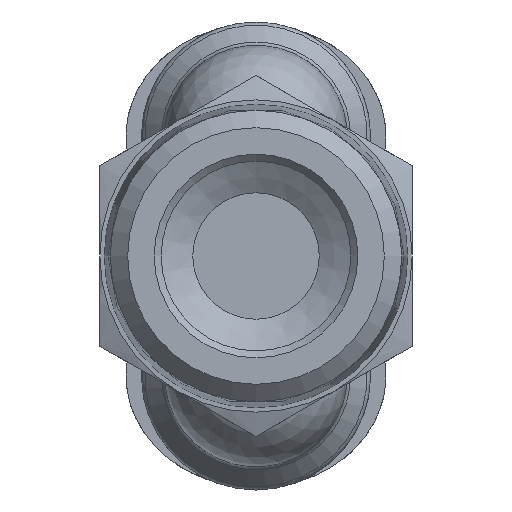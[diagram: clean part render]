
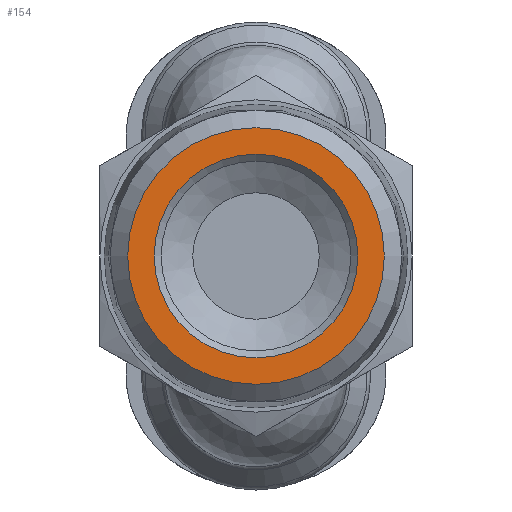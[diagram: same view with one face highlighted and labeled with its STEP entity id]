
A CAD part, front view. The second image highlights one B-rep face of the part: STEP entity #154.
In plain terms, the highlighted planar face has unit normal (0, -1, 0).
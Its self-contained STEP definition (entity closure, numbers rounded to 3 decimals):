
#123=CARTESIAN_POINT('',(0.,0.,7.25));
#124=VERTEX_POINT('',#123);
#125=CARTESIAN_POINT('',(0.0,0.,0.));
#126=DIRECTION('',(0.0,-1.0,0.0));
#127=DIRECTION('',(0.0,0.0,-1.0));
#128=AXIS2_PLACEMENT_3D('',#125,#126,#127);
#129=CIRCLE('',#128,7.25);
#130=EDGE_CURVE('',#124,#124,#129,.T.);
#135=CARTESIAN_POINT('',(5.165,0.,0.0));
#136=DIRECTION('',(0.0,-1.0,0.0));
#137=DIRECTION('',(0.0,0.0,-1.0));
#138=AXIS2_PLACEMENT_3D('',#135,#136,#137);
#139=PLANE('',#138);
#140=CARTESIAN_POINT('',(9.131,0.,0.));
#141=VERTEX_POINT('',#140);
#142=CARTESIAN_POINT('',(0.0,0.,0.0));
#143=DIRECTION('',(0.0,1.0,0.0));
#144=DIRECTION('',(-1.0,0.0,0.0));
#145=AXIS2_PLACEMENT_3D('',#142,#143,#144);
#146=CIRCLE('',#145,9.131);
#147=EDGE_CURVE('',#141,#141,#146,.T.);
#148=ORIENTED_EDGE('',*,*,#147,.F.);
#149=EDGE_LOOP('',(#148));
#150=FACE_OUTER_BOUND('',#149,.T.);
#151=ORIENTED_EDGE('',*,*,#130,.F.);
#152=EDGE_LOOP('',(#151));
#153=FACE_BOUND('',#152,.T.);
#154=ADVANCED_FACE('',(#150,#153),#139,.T.);
